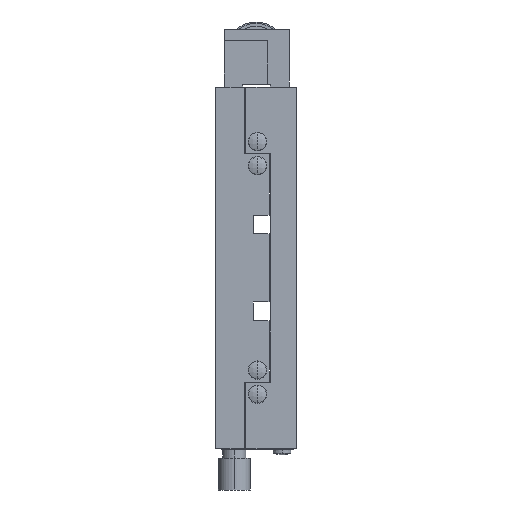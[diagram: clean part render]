
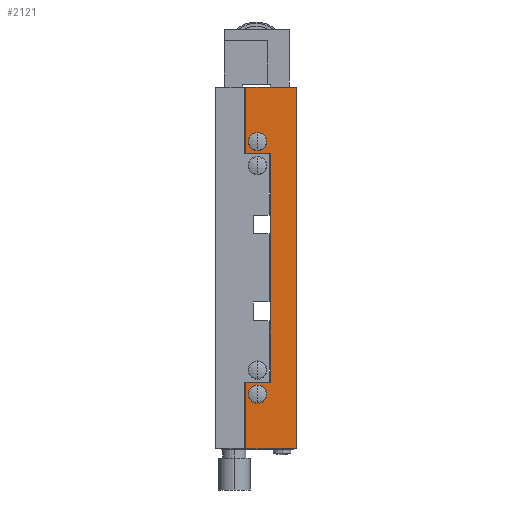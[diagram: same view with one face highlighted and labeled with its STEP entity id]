
A CAD part, left-side view. The second image highlights one B-rep face of the part: STEP entity #2121.
In plain terms, the highlighted planar face has unit normal (-1, 0, 0).
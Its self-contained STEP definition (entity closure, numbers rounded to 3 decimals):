
#1832 = VERTEX_POINT ( 'NONE', #9970 ) ;
#1847 = VERTEX_POINT ( 'NONE', #10004 ) ;
#1865 = EDGE_CURVE ( 'NONE', #1847, #1879, #4557, .T. ) ;
#1879 = VERTEX_POINT ( 'NONE', #4599 ) ;
#1890 = EDGE_CURVE ( 'NONE', #10310, #10307, #4589, .T. ) ;
#1891 = EDGE_CURVE ( 'NONE', #10235, #10232, #4584, .T. ) ;
#1896 = EDGE_CURVE ( 'NONE', #1904, #1905, #4636, .T. ) ;
#1904 = VERTEX_POINT ( 'NONE', #4624 ) ;
#1905 = VERTEX_POINT ( 'NONE', #4623 ) ;
#1965 = EDGE_CURVE ( 'NONE', #1904, #1832, #4706, .T. ) ;
#2034 = EDGE_LOOP ( 'NONE', ( #2128, #2045 ) ) ;
#2045 = ORIENTED_EDGE ( 'NONE', *, *, #10234, .F. ) ;
#2046 = EDGE_LOOP ( 'NONE', ( #2047, #2050, #7961, #2422, #4534, #2425, #4535, #8033 ) ) ;
#2047 = ORIENTED_EDGE ( 'NONE', *, *, #2048, .T. ) ;
#2048 = EDGE_CURVE ( 'NONE', #2049, #1879, #5296, .T. ) ;
#2049 = VERTEX_POINT ( 'NONE', #5290 ) ;
#2050 = ORIENTED_EDGE ( 'NONE', *, *, #1865, .F. ) ;
#2121 = ADVANCED_FACE ( 'NONE', ( #5551, #5550, #5548 ), #5429, .T. ) ;
#2128 = ORIENTED_EDGE ( 'NONE', *, *, #1891, .F. ) ;
#2422 = ORIENTED_EDGE ( 'NONE', *, *, #1896, .F. ) ;
#2423 = EDGE_CURVE ( 'NONE', #1847, #1905, #2829, .T. ) ;
#2424 = VERTEX_POINT ( 'NONE', #2825 ) ;
#2425 = ORIENTED_EDGE ( 'NONE', *, *, #4532, .T. ) ;
#2426 = ORIENTED_EDGE ( 'NONE', *, *, #1890, .F. ) ;
#2825 = CARTESIAN_POINT ( 'NONE',  ( -62.5, 0., 62.5 ) ) ;
#2826 = DIRECTION ( 'NONE',  ( 0., 0., -1. ) ) ;
#2827 = VECTOR ( 'NONE', #2826, 1000. ) ;
#2828 = CARTESIAN_POINT ( 'NONE',  ( -62.5, 9., 40. ) ) ;
#2829 = LINE ( 'NONE', #2828, #2827 ) ;
#4532 = EDGE_CURVE ( 'NONE', #1832, #7972, #6835, .T. ) ;
#4534 = ORIENTED_EDGE ( 'NONE', *, *, #1965, .T. ) ;
#4535 = ORIENTED_EDGE ( 'NONE', *, *, #4538, .T. ) ;
#4538 = EDGE_CURVE ( 'NONE', #7972, #2424, #6826, .T. ) ;
#4541 = EDGE_CURVE ( 'NONE', #2424, #2049, #6822, .T. ) ;
#4542 = EDGE_LOOP ( 'NONE', ( #2426, #7962 ) ) ;
#4554 = DIRECTION ( 'NONE',  ( 0., 1., 0. ) ) ;
#4555 = VECTOR ( 'NONE', #4554, 1000. ) ;
#4556 = CARTESIAN_POINT ( 'NONE',  ( -62.5, 9.5, 39.5 ) ) ;
#4557 = LINE ( 'NONE', #4556, #4555 ) ;
#4580 = DIRECTION ( 'NONE',  ( 0., 0., 1. ) ) ;
#4581 = DIRECTION ( 'NONE',  ( -1., 0., 0. ) ) ;
#4582 = CARTESIAN_POINT ( 'NONE',  ( -62.5, 13.5, 43.65 ) ) ;
#4583 = AXIS2_PLACEMENT_3D ( 'NONE', #4582, #4581, #4580 ) ;
#4584 = CIRCLE ( 'NONE', #4583, 3.15 ) ;
#4585 = DIRECTION ( 'NONE',  ( 0., 0., -1. ) ) ;
#4586 = DIRECTION ( 'NONE',  ( -1., 0., 0. ) ) ;
#4587 = CARTESIAN_POINT ( 'NONE',  ( -62.5, 13.5, -43.65 ) ) ;
#4588 = AXIS2_PLACEMENT_3D ( 'NONE', #4587, #4586, #4585 ) ;
#4589 = CIRCLE ( 'NONE', #4588, 3.15 ) ;
#4599 = CARTESIAN_POINT ( 'NONE',  ( -62.5, 17.5, 39.5 ) ) ;
#4623 = CARTESIAN_POINT ( 'NONE',  ( -62.5, 9., -39.5 ) ) ;
#4624 = CARTESIAN_POINT ( 'NONE',  ( -62.5, 17.5, -39.5 ) ) ;
#4633 = DIRECTION ( 'NONE',  ( 0., -1., 0. ) ) ;
#4634 = VECTOR ( 'NONE', #4633, 1000. ) ;
#4635 = CARTESIAN_POINT ( 'NONE',  ( -62.5, 9.5, -39.5 ) ) ;
#4636 = LINE ( 'NONE', #4635, #4634 ) ;
#4703 = DIRECTION ( 'NONE',  ( 0., 0., -1. ) ) ;
#4704 = VECTOR ( 'NONE', #4703, 1000. ) ;
#4705 = CARTESIAN_POINT ( 'NONE',  ( -62.5, 17.5, -62.5 ) ) ;
#4706 = LINE ( 'NONE', #4705, #4704 ) ;
#5290 = CARTESIAN_POINT ( 'NONE',  ( -62.5, 17.5, 62.5 ) ) ;
#5291 = DIRECTION ( 'NONE',  ( 0., 0., -1. ) ) ;
#5292 = VECTOR ( 'NONE', #5291, 1000. ) ;
#5294 = CARTESIAN_POINT ( 'NONE',  ( -62.5, 17.5, 62.5 ) ) ;
#5296 = LINE ( 'NONE', #5294, #5292 ) ;
#5429 = PLANE ( 'NONE',  #5544 ) ;
#5541 = DIRECTION ( 'NONE',  ( 0., 0., 1. ) ) ;
#5542 = DIRECTION ( 'NONE',  ( -1., 0., 0. ) ) ;
#5543 = CARTESIAN_POINT ( 'NONE',  ( -62.5, 17.5, 48.5 ) ) ;
#5544 = AXIS2_PLACEMENT_3D ( 'NONE', #5543, #5542, #5541 ) ;
#5548 = FACE_BOUND ( 'NONE', #4542, .T. ) ;
#5550 = FACE_OUTER_BOUND ( 'NONE', #2046, .T. ) ;
#5551 = FACE_BOUND ( 'NONE', #2034, .T. ) ;
#6810 = CARTESIAN_POINT ( 'NONE',  ( -62.5, 0., -62.5 ) ) ;
#6819 = DIRECTION ( 'NONE',  ( 0., 1., 0. ) ) ;
#6820 = VECTOR ( 'NONE', #6819, 1000. ) ;
#6821 = CARTESIAN_POINT ( 'NONE',  ( -62.5, 0., 62.5 ) ) ;
#6822 = LINE ( 'NONE', #6821, #6820 ) ;
#6823 = DIRECTION ( 'NONE',  ( 0., 0., 1. ) ) ;
#6824 = VECTOR ( 'NONE', #6823, 1000. ) ;
#6825 = CARTESIAN_POINT ( 'NONE',  ( -62.5, 0., -62.5 ) ) ;
#6826 = LINE ( 'NONE', #6825, #6824 ) ;
#6832 = DIRECTION ( 'NONE',  ( 0., -1., 0. ) ) ;
#6833 = VECTOR ( 'NONE', #6832, 1000. ) ;
#6834 = CARTESIAN_POINT ( 'NONE',  ( -62.5, 0., -62.5 ) ) ;
#6835 = LINE ( 'NONE', #6834, #6833 ) ;
#7961 = ORIENTED_EDGE ( 'NONE', *, *, #2423, .T. ) ;
#7962 = ORIENTED_EDGE ( 'NONE', *, *, #10309, .F. ) ;
#7972 = VERTEX_POINT ( 'NONE', #6810 ) ;
#8033 = ORIENTED_EDGE ( 'NONE', *, *, #4541, .T. ) ;
#8078 = CARTESIAN_POINT ( 'NONE',  ( -62.5, 13.5, 40.5 ) ) ;
#8079 = DIRECTION ( 'NONE',  ( 0., 0., 1. ) ) ;
#8080 = DIRECTION ( 'NONE',  ( -1., 0., 0. ) ) ;
#8081 = CARTESIAN_POINT ( 'NONE',  ( -62.5, 13.5, 43.65 ) ) ;
#8082 = AXIS2_PLACEMENT_3D ( 'NONE', #8081, #8080, #8079 ) ;
#8083 = CIRCLE ( 'NONE', #8082, 3.15 ) ;
#8084 = CARTESIAN_POINT ( 'NONE',  ( -62.5, 13.5, 46.8 ) ) ;
#8237 = CARTESIAN_POINT ( 'NONE',  ( -62.5, 13.5, -40.5 ) ) ;
#8238 = DIRECTION ( 'NONE',  ( 0., 0., -1. ) ) ;
#8239 = DIRECTION ( 'NONE',  ( -1., 0., 0. ) ) ;
#8240 = CARTESIAN_POINT ( 'NONE',  ( -62.5, 13.5, -43.65 ) ) ;
#8241 = AXIS2_PLACEMENT_3D ( 'NONE', #8240, #8239, #8238 ) ;
#8242 = CIRCLE ( 'NONE', #8241, 3.15 ) ;
#8243 = CARTESIAN_POINT ( 'NONE',  ( -62.5, 13.5, -46.8 ) ) ;
#9970 = CARTESIAN_POINT ( 'NONE',  ( -62.5, 17.5, -62.5 ) ) ;
#10004 = CARTESIAN_POINT ( 'NONE',  ( -62.5, 9., 39.5 ) ) ;
#10232 = VERTEX_POINT ( 'NONE', #8084 ) ;
#10234 = EDGE_CURVE ( 'NONE', #10232, #10235, #8083, .T. ) ;
#10235 = VERTEX_POINT ( 'NONE', #8078 ) ;
#10307 = VERTEX_POINT ( 'NONE', #8243 ) ;
#10309 = EDGE_CURVE ( 'NONE', #10307, #10310, #8242, .T. ) ;
#10310 = VERTEX_POINT ( 'NONE', #8237 ) ;
